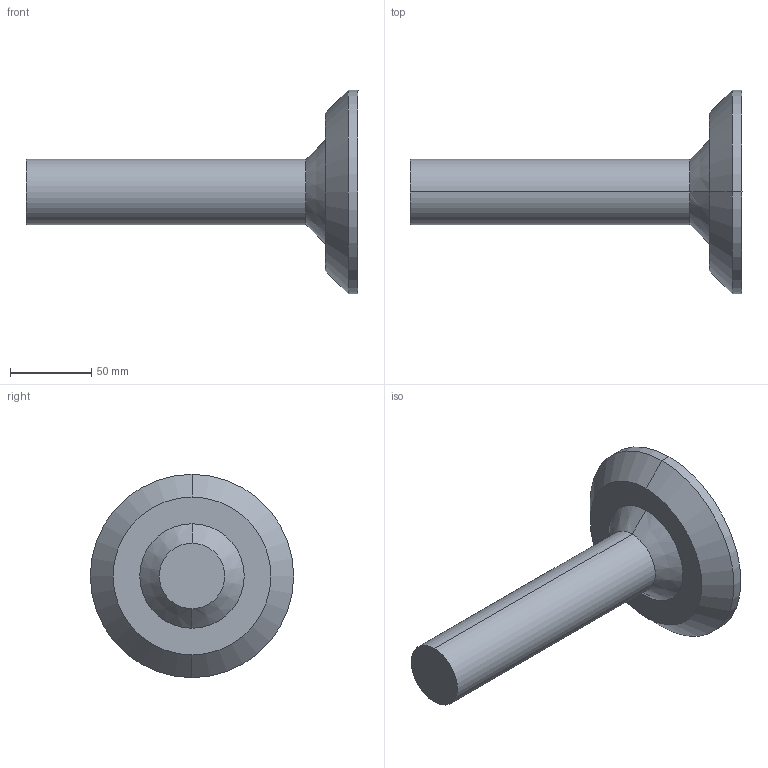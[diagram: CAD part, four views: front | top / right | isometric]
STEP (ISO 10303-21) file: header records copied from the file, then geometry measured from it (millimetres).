
FILE_DESCRIPTION (( 'STEP AP214' ), '1' );
FILE_NAME ('IRB4400_60_m2000_rev1_01-13.STEP', '2001-11-21T06:49:12', ( 'Jonas Eriksson' ), ( 'Evotech Engineering AB' ), 'SwSTEP 2.0', 'SolidWorks 2001287', '' );
FILE_SCHEMA (( 'AUTOMOTIVE_DESIGN' ));
Length unit declared in the file: millimetre
Products named in the file (1): IRB4400_60_m2000_rev1_01-13
Bounding box: 204 x 125 x 125 mm (x, y, z)
Volume: 421333.9 mm3; surface area: 55342 mm2
Topology: 1 solids, 1 shells, 91 faces, 236 edges, 156 vertices
Faces by surface type: plane 81, cylinder 6, cone 4
Entity records: 2757 total; most frequent: CARTESIAN_POINT 484, ORIENTED_EDGE 472, DIRECTION 436, EDGE_CURVE 236, LINE 220, VECTOR 220, VERTEX_POINT 156, AXIS2_PLACEMENT_3D 108
